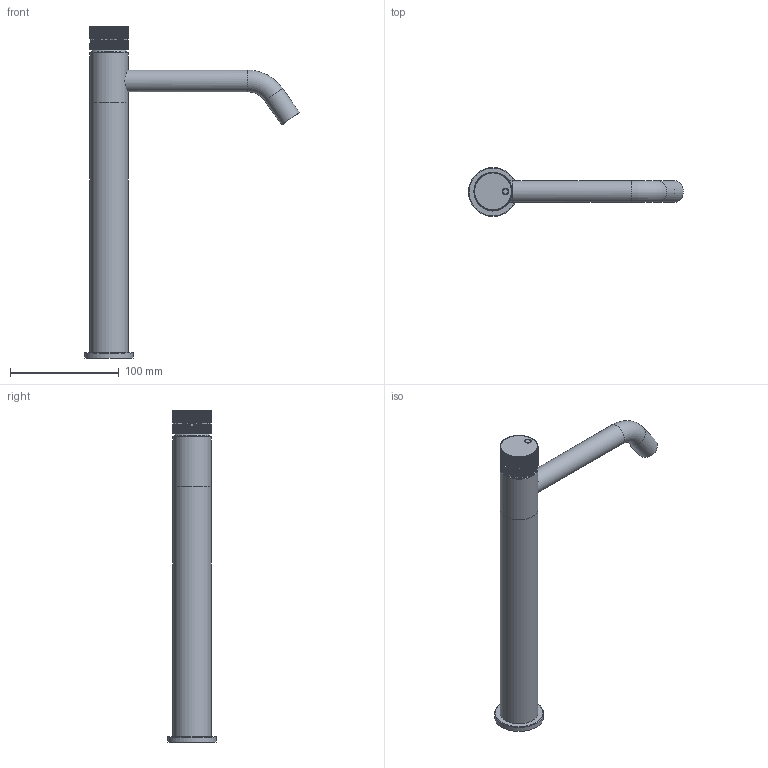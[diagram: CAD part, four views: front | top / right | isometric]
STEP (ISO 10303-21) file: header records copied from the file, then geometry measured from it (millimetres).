
FILE_DESCRIPTION(/* description */ ('Unknown'),/* implementation_level */ '2;1');
FILE_NAME(/* name */ 'RE020H',/* time_stamp */ '2023-07-04T14:21:27+02:00',/* author */ ('Unknown'),/* organization */ ('Unknown'),/* preprocessor_version */ 'ST-DEVELOPER v18.102',/* originating_system */ 'Solid Edge',/* authorisation */ 'Unknown');
FILE_SCHEMA (('AUTOMOTIVE_DESIGN {1 0 10303 214 3 1 1}'));
Length unit declared in the file: millimetre
Products named in the file (9): RE020H; RE020-05; RE020-02; RE020H-01; RE020-03; RE020-09; RE020H-02; 44.3256.450_oa_0; 44.3256.450-1
Assembly tree (8 placements, depth 3):
  RE020H
    RE020-05
    RE020-02
    RE020H-01
    RE020-03
    RE020-09
    RE020H-02
    44.3256.450_oa_0
      44.3256.450-1
Bounding box: 197.7 x 45 x 305.4 mm (x, y, z)
Volume: 105776.7 mm3; surface area: 92955.8 mm2
Topology: 7 solids, 7 shells, 745 faces, 2090 edges, 1386 vertices
Faces by surface type: plane 330, cone 212, cylinder 163, torus 22, bspline 17, sphere 1
Full cylindrical faces by diameter (mm): 3.2 x2, 3.242 x1, 5 x4, 6 x2, 6.647 x2, 8.917 x4, 10 x1, 11 x3, 12.196 x1, 13.464 x1, 13.5 x1, 14.577 x1, 15 x1, 15.033 x1, 15.218 x1, 15.229 x1, 15.417 x2, 16.376 x2, 16.5 x2, 16.75 x1, 18 x1, 18.3 x1, 20 x2, 22 x1, 25.5 x1, 26 x2, 27.917 x2, 28 x1, 29.5 x1, 30.5 x1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
Entity records: 28941 total; most frequent: CARTESIAN_POINT 5820, ORIENTED_EDGE 3798, DIRECTION 3547, EDGE_CURVE 1899, AXIS2_PLACEMENT_3D 1336, VERTEX_POINT 1318, FACE_BOUND 907, EDGE_LOOP 903
